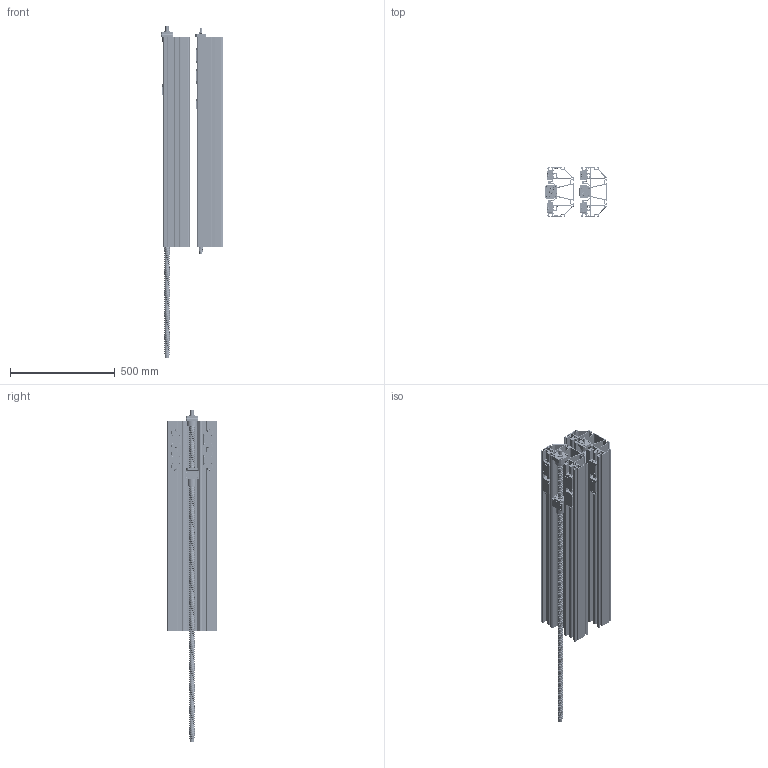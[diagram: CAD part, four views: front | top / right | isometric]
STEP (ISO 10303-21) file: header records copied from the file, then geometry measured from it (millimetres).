
FILE_DESCRIPTION(/* description */ (''),/* implementation_level */ '2;1');
FILE_NAME(/* name */ '3D model X-Axis heavy',/* time_stamp */ '2026-03-10T23:18:37+02:00',/* author */ (''),/* organization */ (''),/* preprocessor_version */ 'ST-DEVELOPER v19.2',/* originating_system */ 'Rhino 8.18',/* authorisation */ '');
FILE_SCHEMA (('CONFIG_CONTROL_DESIGN'));
Products named in the file (13): Document; FK17轴套长; FK17轴套短; GB-T70.1-2000,M6x10; GB-T292_B_C_DB-1994,B7203_C_DB; 油封_022; RM2510_BALLNUT; DSG25H_HOUSING; FK15轴套长10.5; 轴套_005; 油封_004; GB-T70.1-2000,M4x6; GB-T292_B_C_DB-1994,B7002_C_DB
Bounding box: 299.02 x 235 x 1583.5 mm (x, y, z)
Volume: 13740606.2 mm3; surface area: 6173621.7 mm2
Topology: 121 solids, 121 shells, 8674 faces, 23223 edges, 14929 vertices
Faces by surface type: plane 3884, cylinder 3375, bspline 1415
Entity records: 551217 total; most frequent: CARTESIAN_POINT 364117, ORIENTED_EDGE 44558, EDGE_CURVE 22279, DIRECTION 17566, VERTEX_POINT 14547, B_SPLINE_CURVE_WITH_KNOTS 14179, AXIS2_PLACEMENT_3D 12314, EDGE_LOOP 8984
